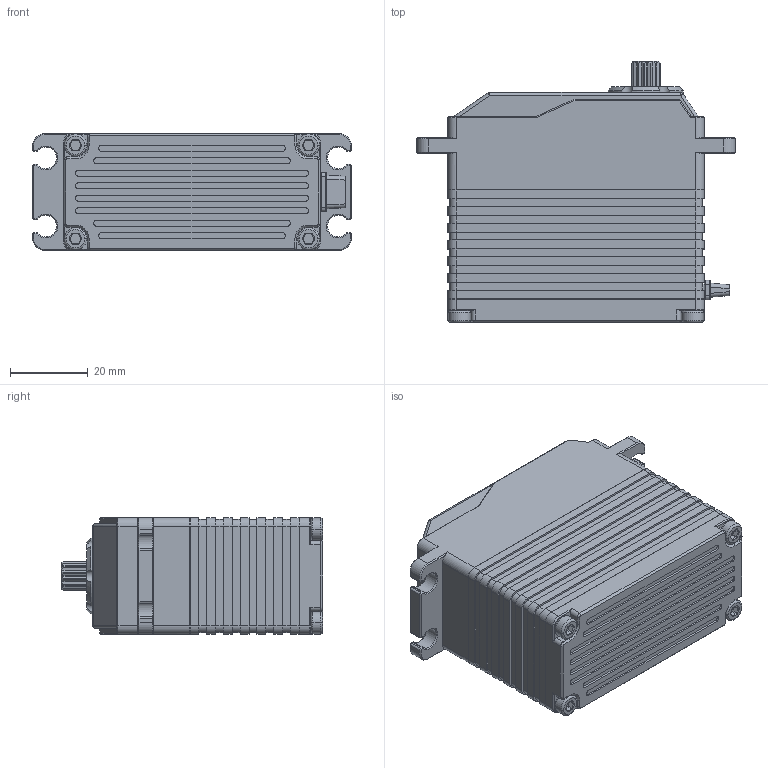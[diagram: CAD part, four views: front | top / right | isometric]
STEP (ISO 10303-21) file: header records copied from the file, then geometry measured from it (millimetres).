
FILE_DESCRIPTION((''),'2;1');
FILE_NAME('DDJ-80KG4-A280V2','2025-09-12T',('扂'),(''),'PRO/ENGINEER BY PARAMETRIC TECHNOLOGY CORPORATION, 2010280','PRO/ENGINEER BY PARAMETRIC TECHNOLOGY CORPORATION, 2010280','');
FILE_SCHEMA(('CONFIG_CONTROL_DESIGN'));
Length unit declared in the file: millimetre
Products named in the file (1): DDJ-80KG4-A280V2
Bounding box: 81.8 x 67 x 30 mm (x, y, z)
Volume: 114428.7 mm3; surface area: 18038 mm2
Topology: 1 solids, 1 shells, 762 faces, 1965 edges, 1237 vertices
Faces by surface type: plane 308, cylinder 298, cone 88, torus 48, bspline 16, sphere 4
Entity records: 26262 total; most frequent: CARTESIAN_POINT 7451, DIRECTION 4011, ORIENTED_EDGE 3926, EDGE_CURVE 1963, AXIS2_PLACEMENT_3D 1462, VERTEX_POINT 1237, VECTOR 1087, LINE 1087
